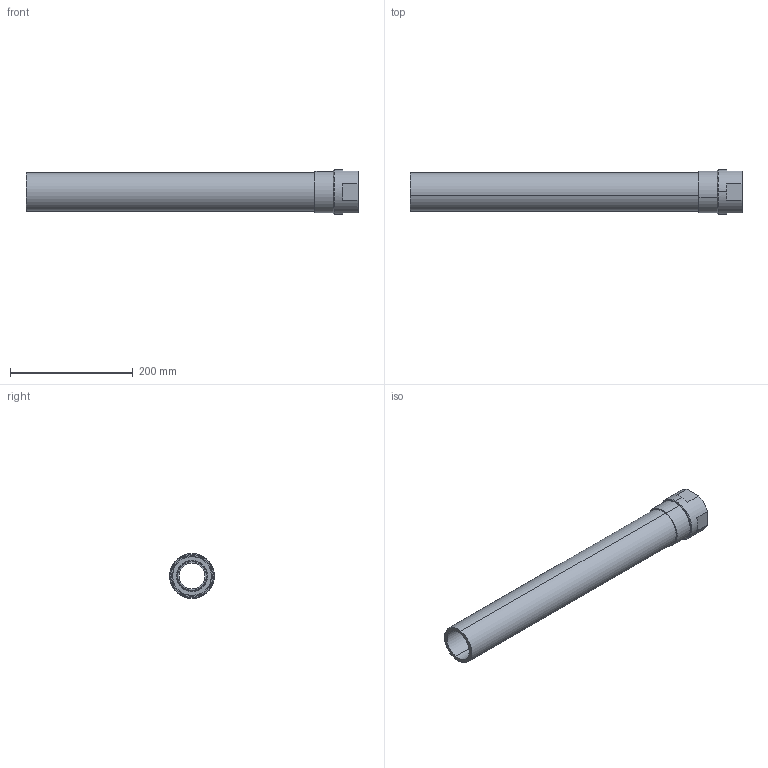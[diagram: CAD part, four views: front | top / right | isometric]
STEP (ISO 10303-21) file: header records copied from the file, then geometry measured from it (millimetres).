
FILE_DESCRIPTION (( 'STEP AP214' ), '1' );
FILE_NAME ('KP_C17-63FL.step', '2012-09-03T10:40:39', ( 'robinj' ), ( 'Microsoft' ), 'SwSTEP 2.0', 'SolidWorks 2012', '' );
FILE_SCHEMA (( 'AUTOMOTIVE_DESIGN' ));
Length unit declared in the file: millimetre
Products named in the file (1): KP_C17-63FL
Bounding box: 540 x 73 x 73 mm (x, y, z)
Volume: 641485 mm3; surface area: 223570.4 mm2
Topology: 3 solids, 3 shells, 54 faces, 116 edges, 72 vertices
Faces by surface type: cylinder 18, plane 18, cone 12, torus 6
Entity records: 2140 total; most frequent: DIRECTION 296, CARTESIAN_POINT 243, ORIENTED_EDGE 232, AXIS2_PLACEMENT_3D 125, EDGE_CURVE 116, VERTEX_POINT 72, CIRCLE 70, EDGE_LOOP 64
